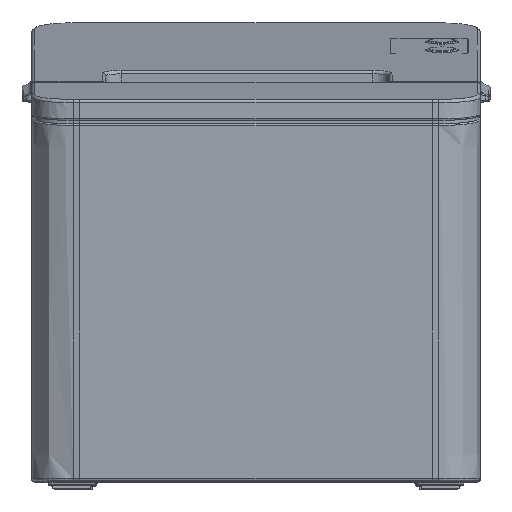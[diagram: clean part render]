
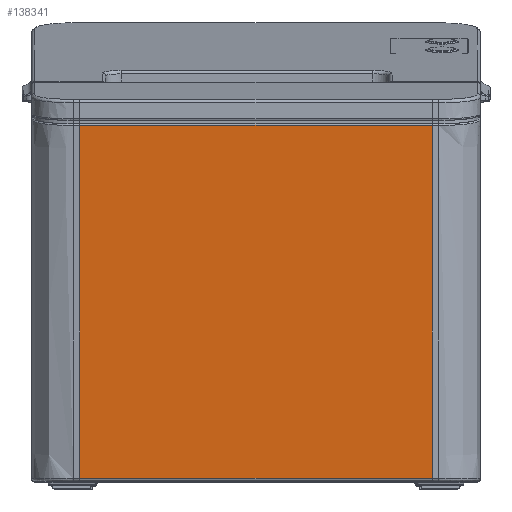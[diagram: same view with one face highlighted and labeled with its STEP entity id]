
A CAD part, top view. The second image highlights one B-rep face of the part: STEP entity #138341.
In plain terms, the highlighted planar face has unit normal (0, -0.07, 0.998).
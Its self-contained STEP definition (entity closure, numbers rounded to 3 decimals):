
#133391=DIRECTION('',(0.,-0.998,-0.07));
#133392=VECTOR('',#133391,110.355);
#133393=CARTESIAN_POINT('',(55.,76.016,15.463));
#133394=LINE('',#133393,#133392);
#133398=CARTESIAN_POINT('',(55.,76.016,15.463));
#133438=DIRECTION('',(-1.,0.,0.));
#133439=VECTOR('',#133438,110.);
#133440=CARTESIAN_POINT('',(55.,-34.07,7.765));
#133441=LINE('',#133440,#133439);
#133442=DIRECTION('',(0.,-0.998,-0.07));
#133443=VECTOR('',#133442,110.355);
#133444=CARTESIAN_POINT('',(-55.,76.016,15.463));
#133445=LINE('',#133444,#133443);
#133446=DIRECTION('',(1.,0.,0.));
#133447=VECTOR('',#133446,110.);
#133448=CARTESIAN_POINT('',(-55.,76.016,15.463));
#133449=LINE('',#133448,#133447);
#133516=CARTESIAN_POINT('',(-55.,76.016,15.463));
#134216=CARTESIAN_POINT('',(55.,-34.07,7.765));
#134217=CARTESIAN_POINT('',(-55.,-34.07,7.765));
#134218=VERTEX_POINT('',#134216);
#134219=VERTEX_POINT('',#134217);
#134419=VERTEX_POINT('',#133398);
#134421=VERTEX_POINT('',#133516);
#138327=CARTESIAN_POINT('',(-70.,84.029,16.023));
#138328=DIRECTION('',(0.,-0.07,0.998));
#138329=DIRECTION('',(0.,-0.998,-0.07));
#138330=AXIS2_PLACEMENT_3D('',#138327,#138328,#138329);
#138331=PLANE('',#138330);
#138333=ORIENTED_EDGE('',*,*,#138332,.T.);
#138335=ORIENTED_EDGE('',*,*,#138334,.F.);
#138337=ORIENTED_EDGE('',*,*,#138336,.T.);
#138338=ORIENTED_EDGE('',*,*,#138069,.T.);
#138339=EDGE_LOOP('',(#138333,#138335,#138337,#138338));
#138340=FACE_OUTER_BOUND('',#138339,.F.);
#138069=EDGE_CURVE('',#134419,#134218,#133394,.T.);
#138332=EDGE_CURVE('',#134218,#134219,#133441,.T.);
#138334=EDGE_CURVE('',#134421,#134219,#133445,.T.);
#138336=EDGE_CURVE('',#134421,#134419,#133449,.T.);
#138341=ADVANCED_FACE('',(#138340),#138331,.T.);
